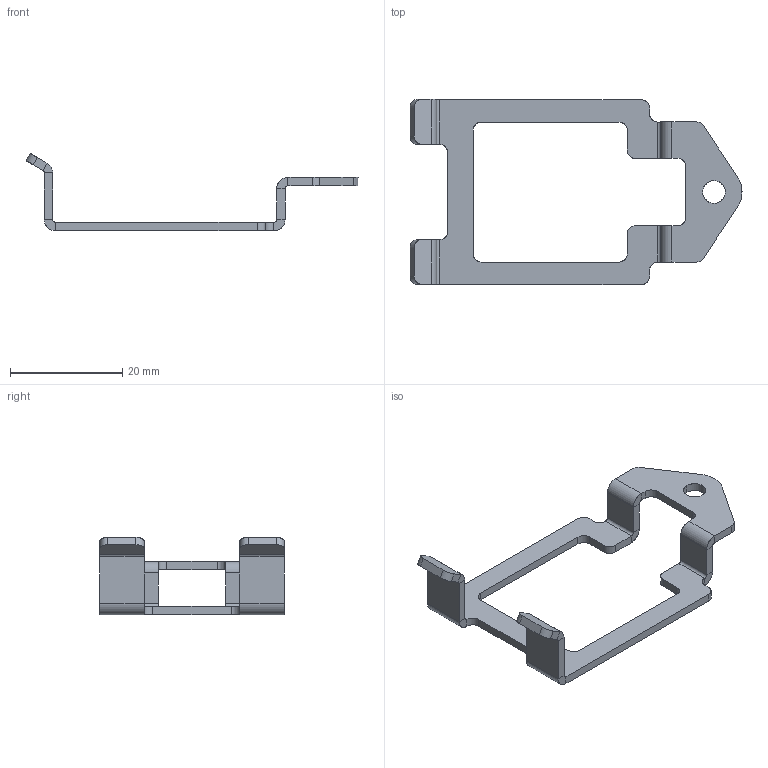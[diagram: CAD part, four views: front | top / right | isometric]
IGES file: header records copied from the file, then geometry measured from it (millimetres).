
Global section: file name: C:\Users\Knabe\Documents\Classes\8 Semester 8\DARwIn\Deliverables\DARwIn OP\DARwIn OP Part Files\OP 3D CAD Files\3D IGS\8_PR13_FRM_CVR_BAT.igs; native system: NX V7.0; preprocessor: SIEMENS PLM Software NX 7.0; date: 20110525.180241; units: millimetre
Bounding box: 59.25 x 33 x 13.81 mm (x, y, z)
Surface area: 2671.3 mm2 (no closed solid volume)
Topology: 0 solids, 0 shells, 105 faces, 562 edges, 562 vertices
Faces by surface type: bspline 105
